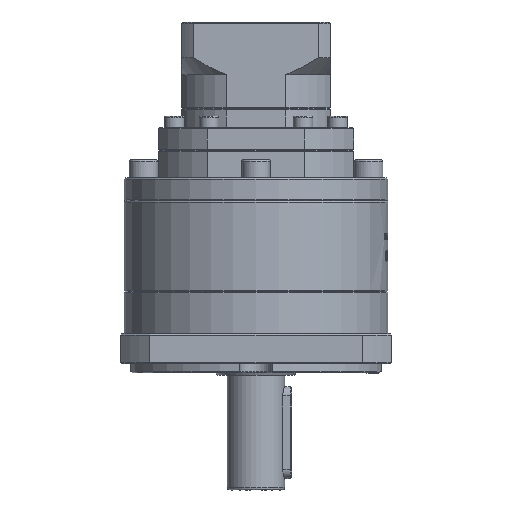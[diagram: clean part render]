
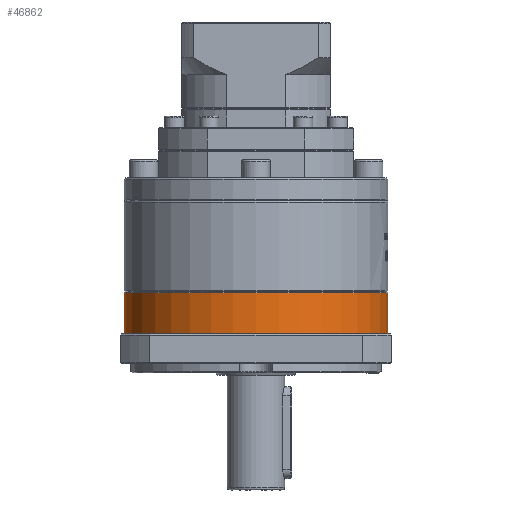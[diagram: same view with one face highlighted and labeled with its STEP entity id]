
A CAD part, front view. The second image highlights one B-rep face of the part: STEP entity #46862.
In plain terms, the highlighted cylindrical face has radius 57.5 mm (diameter 115 mm), a partial arc.
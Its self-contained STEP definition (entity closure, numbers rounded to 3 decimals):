
#3491 = CARTESIAN_POINT ( 'NONE',  ( -38.926, 0.878, -52.197 ) ) ;
#8607 = CARTESIAN_POINT ( 'NONE',  ( 18.574, 0.878, -52.197 ) ) ;
#13023 = VECTOR ( 'NONE', #37547, 1000. ) ;
#13327 = ORIENTED_EDGE ( 'NONE', *, *, #110594, .F. ) ;
#13349 = VECTOR ( 'NONE', #101020, 1000. ) ;
#15950 = FACE_OUTER_BOUND ( 'NONE', #71607, .T. ) ;
#25444 = CARTESIAN_POINT ( 'NONE',  ( 18.574, 0.878, -34.197 ) ) ;
#27173 = AXIS2_PLACEMENT_3D ( 'NONE', #88452, #35086, #97495 ) ;
#28546 = CARTESIAN_POINT ( 'NONE',  ( 76.074, 0.878, -52.197 ) ) ;
#34379 = DIRECTION ( 'NONE',  ( -1., 0., 0. ) ) ;
#35086 = DIRECTION ( 'NONE',  ( 0., 0., 1. ) ) ;
#35601 = VERTEX_POINT ( 'NONE', #64152 ) ;
#37053 = LINE ( 'NONE', #47554, #13349 ) ;
#37547 = DIRECTION ( 'NONE',  ( 0., 0., 1. ) ) ;
#38826 = VERTEX_POINT ( 'NONE', #3491 ) ;
#46862 = ADVANCED_FACE ( 'NONE', ( #15950 ), #99573, .T. ) ;
#47554 = CARTESIAN_POINT ( 'NONE',  ( -38.926, 0.878, -52.197 ) ) ;
#53651 = EDGE_CURVE ( 'NONE', #38826, #101711, #37053, .T. ) ;
#63606 = AXIS2_PLACEMENT_3D ( 'NONE', #8607, #88857, #71339 ) ;
#64152 = CARTESIAN_POINT ( 'NONE',  ( 76.074, 0.878, -34.197 ) ) ;
#66770 = VERTEX_POINT ( 'NONE', #102998 ) ;
#69579 = CIRCLE ( 'NONE', #114686, 57.5 ) ;
#71339 = DIRECTION ( 'NONE',  ( 1., 0., 0. ) ) ;
#71607 = EDGE_LOOP ( 'NONE', ( #73633, #89427, #109869, #13327 ) ) ;
#73633 = ORIENTED_EDGE ( 'NONE', *, *, #53651, .F. ) ;
#76414 = EDGE_CURVE ( 'NONE', #66770, #35601, #107924, .T. ) ;
#76842 = EDGE_CURVE ( 'NONE', #38826, #66770, #76899, .T. ) ;
#76899 = CIRCLE ( 'NONE', #27173, 57.5 ) ;
#78536 = CARTESIAN_POINT ( 'NONE',  ( -38.926, 0.878, -34.197 ) ) ;
#87804 = DIRECTION ( 'NONE',  ( 0., 0., 1. ) ) ;
#88452 = CARTESIAN_POINT ( 'NONE',  ( 18.574, 0.878, -52.197 ) ) ;
#88857 = DIRECTION ( 'NONE',  ( 0., 0., 1. ) ) ;
#89427 = ORIENTED_EDGE ( 'NONE', *, *, #76842, .T. ) ;
#97495 = DIRECTION ( 'NONE',  ( 1., 0., 0. ) ) ;
#99573 = CYLINDRICAL_SURFACE ( 'NONE', #63606, 57.5 ) ;
#101020 = DIRECTION ( 'NONE',  ( 0., 0., 1. ) ) ;
#101711 = VERTEX_POINT ( 'NONE', #78536 ) ;
#102998 = CARTESIAN_POINT ( 'NONE',  ( 76.074, 0.878, -52.197 ) ) ;
#107924 = LINE ( 'NONE', #28546, #13023 ) ;
#109869 = ORIENTED_EDGE ( 'NONE', *, *, #76414, .T. ) ;
#110594 = EDGE_CURVE ( 'NONE', #101711, #35601, #69579, .T. ) ;
#114686 = AXIS2_PLACEMENT_3D ( 'NONE', #25444, #87804, #34379 ) ;
